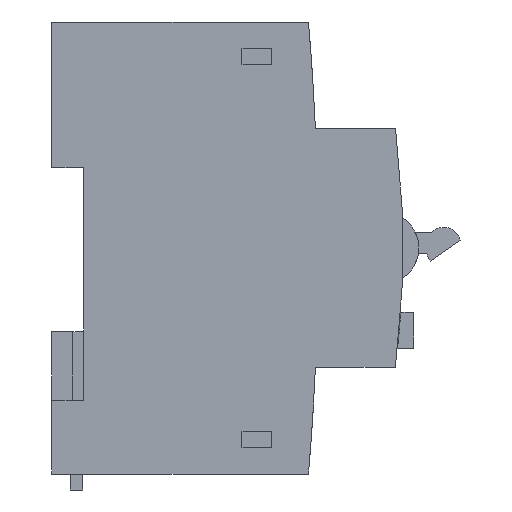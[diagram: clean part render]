
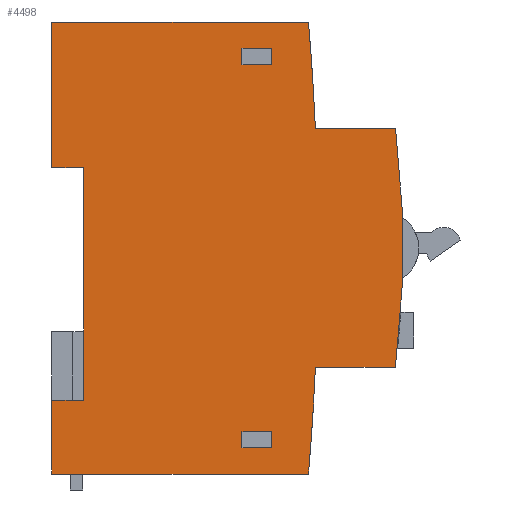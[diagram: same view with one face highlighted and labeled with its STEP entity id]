
A CAD part, left-side view. The second image highlights one B-rep face of the part: STEP entity #4498.
In plain terms, the highlighted planar face has unit normal (-1, 0, 0).
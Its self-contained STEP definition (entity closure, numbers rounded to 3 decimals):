
#35=CIRCLE('',#4690,500.014);
#36=CIRCLE('',#4691,179.988);
#37=CIRCLE('',#4692,500.014);
#92=ORIENTED_EDGE('',*,*,#1024,.T.);
#93=ORIENTED_EDGE('',*,*,#1025,.T.);
#94=ORIENTED_EDGE('',*,*,#1026,.T.);
#95=ORIENTED_EDGE('',*,*,#1027,.T.);
#96=ORIENTED_EDGE('',*,*,#1028,.F.);
#97=ORIENTED_EDGE('',*,*,#1029,.F.);
#98=ORIENTED_EDGE('',*,*,#1030,.F.);
#99=ORIENTED_EDGE('',*,*,#1031,.F.);
#100=ORIENTED_EDGE('',*,*,#1032,.F.);
#101=ORIENTED_EDGE('',*,*,#1033,.F.);
#102=ORIENTED_EDGE('',*,*,#1034,.F.);
#103=ORIENTED_EDGE('',*,*,#1035,.F.);
#104=ORIENTED_EDGE('',*,*,#1036,.F.);
#105=ORIENTED_EDGE('',*,*,#1037,.F.);
#106=ORIENTED_EDGE('',*,*,#1038,.F.);
#107=ORIENTED_EDGE('',*,*,#1039,.F.);
#108=ORIENTED_EDGE('',*,*,#1040,.F.);
#109=ORIENTED_EDGE('',*,*,#1041,.F.);
#110=ORIENTED_EDGE('',*,*,#1042,.F.);
#111=ORIENTED_EDGE('',*,*,#1043,.F.);
#1024=EDGE_CURVE('',#1490,#1491,#1799,.T.);
#1025=EDGE_CURVE('',#1491,#1492,#1800,.T.);
#1026=EDGE_CURVE('',#1492,#1493,#1801,.T.);
#1027=EDGE_CURVE('',#1493,#1490,#1802,.T.);
#1028=EDGE_CURVE('',#1494,#1495,#1803,.T.);
#1029=EDGE_CURVE('',#1496,#1494,#1804,.T.);
#1030=EDGE_CURVE('',#1497,#1496,#1805,.T.);
#1031=EDGE_CURVE('',#1498,#1497,#1806,.T.);
#1032=EDGE_CURVE('',#1499,#1498,#1807,.T.);
#1033=EDGE_CURVE('',#1500,#1499,#1808,.T.);
#1034=EDGE_CURVE('',#1501,#1500,#35,.T.);
#1035=EDGE_CURVE('',#1502,#1501,#1809,.T.);
#1036=EDGE_CURVE('',#1503,#1502,#36,.T.);
#1037=EDGE_CURVE('',#1504,#1503,#1810,.T.);
#1038=EDGE_CURVE('',#1505,#1504,#37,.T.);
#1039=EDGE_CURVE('',#1495,#1505,#1811,.T.);
#1040=EDGE_CURVE('',#1506,#1507,#1812,.T.);
#1041=EDGE_CURVE('',#1508,#1506,#1813,.T.);
#1042=EDGE_CURVE('',#1509,#1508,#1814,.T.);
#1043=EDGE_CURVE('',#1507,#1509,#1815,.T.);
#1490=VERTEX_POINT('',#5822);
#1491=VERTEX_POINT('',#5823);
#1492=VERTEX_POINT('',#5825);
#1493=VERTEX_POINT('',#5827);
#1494=VERTEX_POINT('',#5830);
#1495=VERTEX_POINT('',#5831);
#1496=VERTEX_POINT('',#5833);
#1497=VERTEX_POINT('',#5835);
#1498=VERTEX_POINT('',#5837);
#1499=VERTEX_POINT('',#5839);
#1500=VERTEX_POINT('',#5841);
#1501=VERTEX_POINT('',#5843);
#1502=VERTEX_POINT('',#5845);
#1503=VERTEX_POINT('',#5847);
#1504=VERTEX_POINT('',#5849);
#1505=VERTEX_POINT('',#5851);
#1506=VERTEX_POINT('',#5854);
#1507=VERTEX_POINT('',#5855);
#1508=VERTEX_POINT('',#5857);
#1509=VERTEX_POINT('',#5859);
#1799=LINE('',#5821,#2221);
#1800=LINE('',#5824,#2222);
#1801=LINE('',#5826,#2223);
#1802=LINE('',#5828,#2224);
#1803=LINE('',#5829,#2225);
#1804=LINE('',#5832,#2226);
#1805=LINE('',#5834,#2227);
#1806=LINE('',#5836,#2228);
#1807=LINE('',#5838,#2229);
#1808=LINE('',#5840,#2230);
#1809=LINE('',#5844,#2231);
#1810=LINE('',#5848,#2232);
#1811=LINE('',#5852,#2233);
#1812=LINE('',#5853,#2234);
#1813=LINE('',#5856,#2235);
#1814=LINE('',#5858,#2236);
#1815=LINE('',#5860,#2237);
#2221=VECTOR('',#4937,1000.);
#2222=VECTOR('',#4938,1000.);
#2223=VECTOR('',#4939,1000.);
#2224=VECTOR('',#4940,1000.);
#2225=VECTOR('',#4941,1000.);
#2226=VECTOR('',#4942,1000.);
#2227=VECTOR('',#4943,1000.);
#2228=VECTOR('',#4944,1000.);
#2229=VECTOR('',#4945,1000.);
#2230=VECTOR('',#4946,1000.);
#2231=VECTOR('',#4949,1000.);
#2232=VECTOR('',#4952,1000.);
#2233=VECTOR('',#4955,1000.);
#2234=VECTOR('',#4956,1000.);
#2235=VECTOR('',#4957,1000.);
#2236=VECTOR('',#4958,1000.);
#2237=VECTOR('',#4959,1000.);
#2629=EDGE_LOOP('',(#92,#93,#94,#95));
#2630=EDGE_LOOP('',(#96,#97,#98,#99,#100,#101,#102,#103,#104,#105,#106,
#107));
#2631=EDGE_LOOP('',(#108,#109,#110,#111));
#2839=FACE_BOUND('',#2629,.T.);
#2840=FACE_BOUND('',#2630,.T.);
#2841=FACE_BOUND('',#2631,.T.);
#3047=PLANE('',#4689);
#4498=ADVANCED_FACE('',(#2839,#2840,#2841),#3047,.F.);
#4689=AXIS2_PLACEMENT_3D('',#5820,#4935,#4936);
#4690=AXIS2_PLACEMENT_3D('',#5842,#4947,#4948);
#4691=AXIS2_PLACEMENT_3D('',#5846,#4950,#4951);
#4692=AXIS2_PLACEMENT_3D('',#5850,#4953,#4954);
#4935=DIRECTION('',(1.,0.,0.));
#4936=DIRECTION('',(0.,0.,-1.));
#4937=DIRECTION('',(0.,-1.,0.));
#4938=DIRECTION('',(0.,0.,-1.));
#4939=DIRECTION('',(0.,1.,0.));
#4940=DIRECTION('',(0.,0.,1.));
#4941=DIRECTION('',(0.,0.,1.));
#4942=DIRECTION('',(0.,1.,0.));
#4943=DIRECTION('',(0.,0.,1.));
#4944=DIRECTION('',(0.,-1.,0.));
#4945=DIRECTION('',(0.,0.,1.));
#4946=DIRECTION('',(0.,1.,0.));
#4947=DIRECTION('',(1.,0.,0.));
#4948=DIRECTION('',(0.,0.,-1.));
#4949=DIRECTION('',(0.,1.,0.));
#4950=DIRECTION('',(1.,0.,0.));
#4951=DIRECTION('',(0.,0.,-1.));
#4952=DIRECTION('',(0.,-1.,0.));
#4953=DIRECTION('',(1.,0.,0.));
#4954=DIRECTION('',(0.,0.,-1.));
#4955=DIRECTION('',(0.,-1.,0.));
#4956=DIRECTION('',(0.,1.,0.));
#4957=DIRECTION('',(0.,0.,1.));
#4958=DIRECTION('',(0.,-1.,0.));
#4959=DIRECTION('',(0.,0.,-1.));
#5820=CARTESIAN_POINT('',(-17.8,449.907,42.5));
#5821=CARTESIAN_POINT('',(-17.8,-35.8,80.1));
#5822=CARTESIAN_POINT('',(-17.8,-35.8,80.1));
#5823=CARTESIAN_POINT('',(-17.8,-41.4,80.1));
#5824=CARTESIAN_POINT('',(-17.8,-41.4,80.1));
#5825=CARTESIAN_POINT('',(-17.8,-41.4,77.));
#5826=CARTESIAN_POINT('',(-17.8,-41.4,77.));
#5827=CARTESIAN_POINT('',(-17.8,-35.8,77.));
#5828=CARTESIAN_POINT('',(-17.8,-35.8,77.));
#5829=CARTESIAN_POINT('',(-17.8,0.,61.866));
#5830=CARTESIAN_POINT('',(-17.8,0.,57.6));
#5831=CARTESIAN_POINT('',(-17.8,0.,85.));
#5832=CARTESIAN_POINT('',(-17.8,-6.,57.6));
#5833=CARTESIAN_POINT('',(-17.8,-6.,57.6));
#5834=CARTESIAN_POINT('',(-17.8,-6.,13.9));
#5835=CARTESIAN_POINT('',(-17.8,-6.,13.9));
#5836=CARTESIAN_POINT('',(-17.8,0.,13.9));
#5837=CARTESIAN_POINT('',(-17.8,0.,13.9));
#5838=CARTESIAN_POINT('',(-17.8,0.,0.));
#5839=CARTESIAN_POINT('',(-17.8,0.,0.));
#5840=CARTESIAN_POINT('',(-17.8,-48.297,0.));
#5841=CARTESIAN_POINT('',(-17.8,-48.297,0.));
#5842=CARTESIAN_POINT('',(-17.8,449.907,42.5));
#5843=CARTESIAN_POINT('',(-17.8,-49.602,20.05));
#5844=CARTESIAN_POINT('',(-17.8,-64.642,20.05));
#5845=CARTESIAN_POINT('',(-17.8,-64.642,20.05));
#5846=CARTESIAN_POINT('',(-17.8,113.928,42.6));
#5847=CARTESIAN_POINT('',(-17.8,-64.667,64.95));
#5848=CARTESIAN_POINT('',(-17.8,-49.602,64.95));
#5849=CARTESIAN_POINT('',(-17.8,-49.602,64.95));
#5850=CARTESIAN_POINT('',(-17.8,449.907,42.5));
#5851=CARTESIAN_POINT('',(-17.8,-48.297,85.));
#5852=CARTESIAN_POINT('',(-17.8,0.,85.));
#5853=CARTESIAN_POINT('',(-17.8,449.907,8.));
#5854=CARTESIAN_POINT('',(-17.8,-41.4,8.));
#5855=CARTESIAN_POINT('',(-17.8,-35.8,8.));
#5856=CARTESIAN_POINT('',(-17.8,-41.4,42.5));
#5857=CARTESIAN_POINT('',(-17.8,-41.4,4.9));
#5858=CARTESIAN_POINT('',(-17.8,449.907,4.9));
#5859=CARTESIAN_POINT('',(-17.8,-35.8,4.9));
#5860=CARTESIAN_POINT('',(-17.8,-35.8,42.5));
